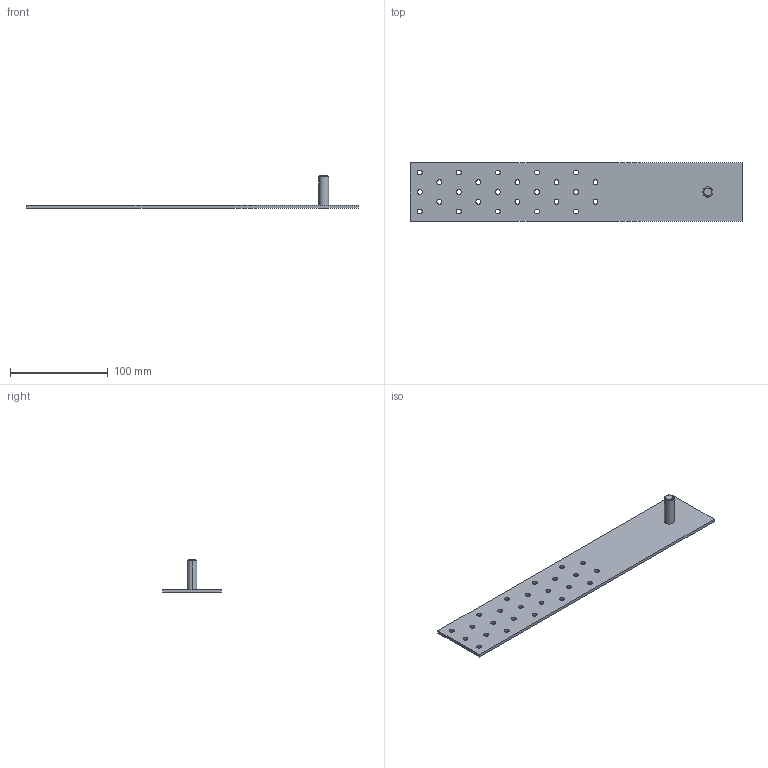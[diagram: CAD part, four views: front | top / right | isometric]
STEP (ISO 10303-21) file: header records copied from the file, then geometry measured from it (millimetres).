
FILE_DESCRIPTION (( 'STEP AP203' ), '1' );
FILE_NAME ('11090340.STEP', '2020-03-10T13:31:20', ( '' ), ( '' ), 'SwSTEP 2.0', 'SolidWorks 2013', '' );
FILE_SCHEMA (( 'CONFIG_CONTROL_DESIGN' ));
Length unit declared in the file: millimetre
Products named in the file (3): Stehbolzen; 11090340; Platine_Zuglasche
Assembly tree (2 placements, depth 2):
  11090340
    Platine_Zuglasche
    Stehbolzen
Bounding box: 340 x 60 x 33 mm (x, y, z)
Volume: 61990.8 mm3; surface area: 44460.8 mm2
Topology: 2 solids, 2 shells, 66 faces, 182 edges, 120 vertices
Faces by surface type: cylinder 54, plane 8, cone 4
Entity records: 2575 total; most frequent: DIRECTION 436, CARTESIAN_POINT 373, ORIENTED_EDGE 364, AXIS2_PLACEMENT_3D 183, EDGE_CURVE 182, VERTEX_POINT 120, EDGE_LOOP 118, CIRCLE 112
